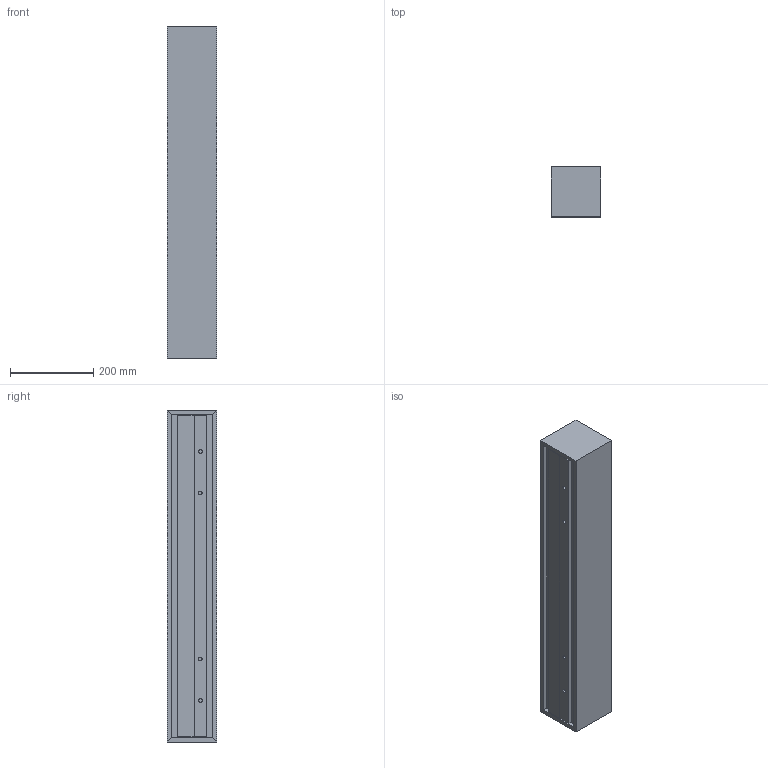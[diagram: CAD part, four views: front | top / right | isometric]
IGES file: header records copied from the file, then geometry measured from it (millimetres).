
Global section: file name: 3D Dosyası,; native system: Autodesk Inventor 2024; preprocessor: unknown; author: pc19; date: 20240826.122649; units: millimetre
Bounding box: 120 x 120 x 800 mm (x, y, z)
Volume: 4691643 mm3; surface area: 1288988 mm2
Topology: 18 solids, 18 shells, 156 faces, 364 edges, 244 vertices
Faces by surface type: bspline 156
